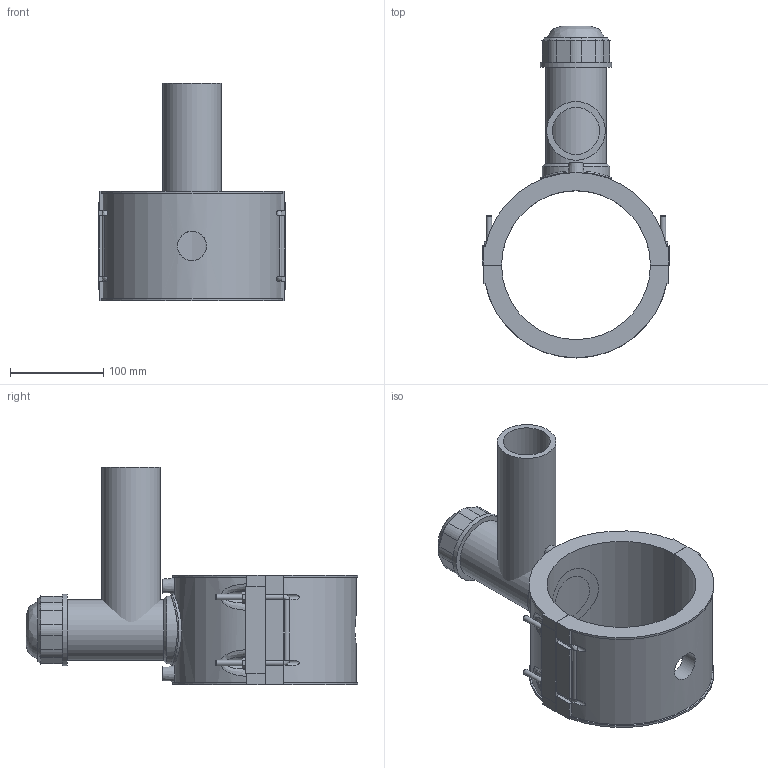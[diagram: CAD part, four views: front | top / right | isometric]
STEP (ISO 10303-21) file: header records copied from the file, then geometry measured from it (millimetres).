
FILE_DESCRIPTION(/* description */ (''),/* implementation_level */ '2;1');
FILE_NAME(/* name */ 'C:\Dropbox\KIMPROJECTS-Inventor 2019\99-16-3568-Processing\ElectroFusion Fittings\4963P4\stp\4963P4160063.stp',/* time_stamp */ '2022-03-17T11:30:33+02:00',/* author */ ('KIM'),/* organization */ (''),/* preprocessor_version */ 'ST-DEVELOPER v17.2',/* originating_system */ 'Autodesk Inventor 2019',/* authorisation */ '');
FILE_SCHEMA (('AUTOMOTIVE_DESIGN { 1 0 10303 214 3 1 1 }'));
Length unit declared in the file: millimetre
Products named in the file (1): 4963P4160063
Bounding box: 201 x 356.55 x 234 mm (x, y, z)
Volume: 1726937.8 mm3; surface area: 310485.9 mm2
Topology: 3 solids, 3 shells, 194 faces, 503 edges, 329 vertices
Faces by surface type: plane 118, cylinder 51, cone 15, bspline 10
Full cylindrical faces by diameter (mm): 4 x2, 6 x8, 10 x2, 31.36 x1, 50.4 x1, 53.76 x1, 63 x1, 65.28 x1, 72.96 x1, 76.8 x2
Entity records: 7290 total; most frequent: CARTESIAN_POINT 2498, ORIENTED_EDGE 1006, DIRECTION 946, EDGE_CURVE 503, VERTEX_POINT 329, AXIS2_PLACEMENT_3D 319, LINE 308, VECTOR 308
